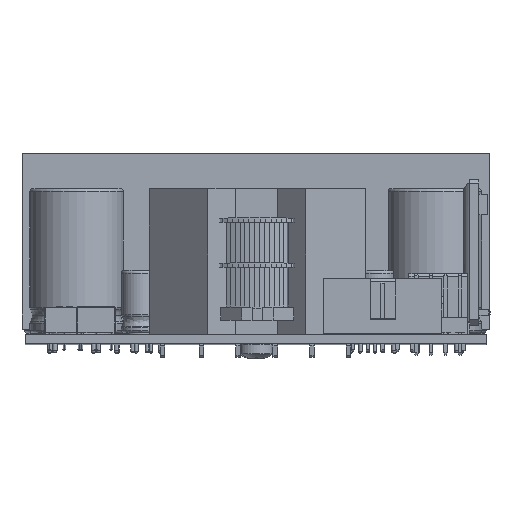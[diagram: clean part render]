
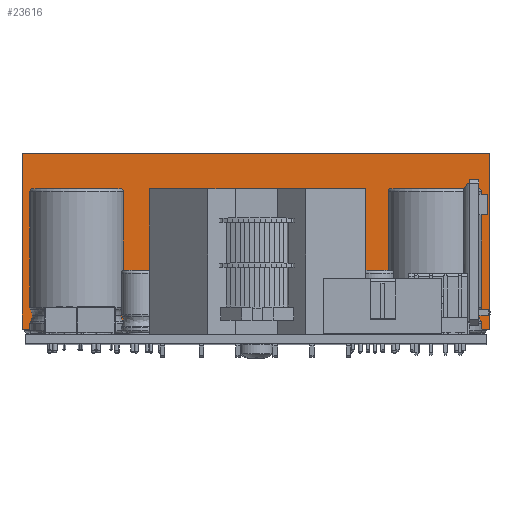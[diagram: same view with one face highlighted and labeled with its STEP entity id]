
A CAD part, top view. The second image highlights one B-rep face of the part: STEP entity #23616.
In plain terms, the highlighted planar face has unit normal (0, 0, 1) as drawn and (0, 0, -1) by its records, which use the part's own axes.
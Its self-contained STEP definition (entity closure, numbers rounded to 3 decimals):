
#182 = EDGE_CURVE ( 'NONE', #17182, #3472, #9056, .T. ) ;
#1099 = CARTESIAN_POINT ( 'NONE',  ( -40., 30., 0. ) ) ;
#3472 = VERTEX_POINT ( 'NONE', #51580 ) ;
#5377 = VERTEX_POINT ( 'NONE', #34538 ) ;
#6288 = VERTEX_POINT ( 'NONE', #16753 ) ;
#6345 = EDGE_CURVE ( 'NONE', #5377, #6288, #13959, .T. ) ;
#6845 = EDGE_CURVE ( 'NONE', #3472, #6288, #59064, .T. ) ;
#7998 = ORIENTED_EDGE ( 'NONE', *, *, #45484, .F. ) ;
#9056 = LINE ( 'NONE', #36129, #65426 ) ;
#10332 = LINE ( 'NONE', #1099, #23159 ) ;
#11684 = EDGE_LOOP ( 'NONE', ( #53666, #31940, #7998, #70107 ) ) ;
#13959 = LINE ( 'NONE', #55101, #21685 ) ;
#16753 = CARTESIAN_POINT ( 'NONE',  ( -40., 0., 0. ) ) ;
#17182 = VERTEX_POINT ( 'NONE', #68167 ) ;
#17873 = FACE_OUTER_BOUND ( 'NONE', #11684, .T. ) ;
#21685 = VECTOR ( 'NONE', #22487, 1000. ) ;
#22487 = DIRECTION ( 'NONE',  ( 0., -1., 0. ) ) ;
#23159 = VECTOR ( 'NONE', #66980, 1000. ) ;
#23616 = ADVANCED_FACE ( 'NONE', ( #17873 ), #24174, .F. ) ;
#23640 = AXIS2_PLACEMENT_3D ( 'NONE', #45327, #61778, #68247 ) ;
#24174 = PLANE ( 'NONE',  #23640 ) ;
#25829 = VECTOR ( 'NONE', #40505, 1000. ) ;
#30417 = DIRECTION ( 'NONE',  ( 0., -1., 0. ) ) ;
#31940 = ORIENTED_EDGE ( 'NONE', *, *, #6345, .F. ) ;
#34538 = CARTESIAN_POINT ( 'NONE',  ( -40., 30., 0. ) ) ;
#34797 = CARTESIAN_POINT ( 'NONE',  ( -40., 0., 0. ) ) ;
#36129 = CARTESIAN_POINT ( 'NONE',  ( 40., 30., 0. ) ) ;
#40505 = DIRECTION ( 'NONE',  ( -1., 0., 0. ) ) ;
#45327 = CARTESIAN_POINT ( 'NONE',  ( -40., 30., 0. ) ) ;
#45484 = EDGE_CURVE ( 'NONE', #17182, #5377, #10332, .T. ) ;
#51580 = CARTESIAN_POINT ( 'NONE',  ( 40., 0., 0. ) ) ;
#53666 = ORIENTED_EDGE ( 'NONE', *, *, #6845, .T. ) ;
#55101 = CARTESIAN_POINT ( 'NONE',  ( -40., 30., 0. ) ) ;
#59064 = LINE ( 'NONE', #34797, #25829 ) ;
#61778 = DIRECTION ( 'NONE',  ( 0., 0., 1. ) ) ;
#65426 = VECTOR ( 'NONE', #30417, 1000. ) ;
#66980 = DIRECTION ( 'NONE',  ( -1., 0., 0. ) ) ;
#68167 = CARTESIAN_POINT ( 'NONE',  ( 40., 30., 0. ) ) ;
#68247 = DIRECTION ( 'NONE',  ( 1., 0., 0. ) ) ;
#70107 = ORIENTED_EDGE ( 'NONE', *, *, #182, .T. ) ;
